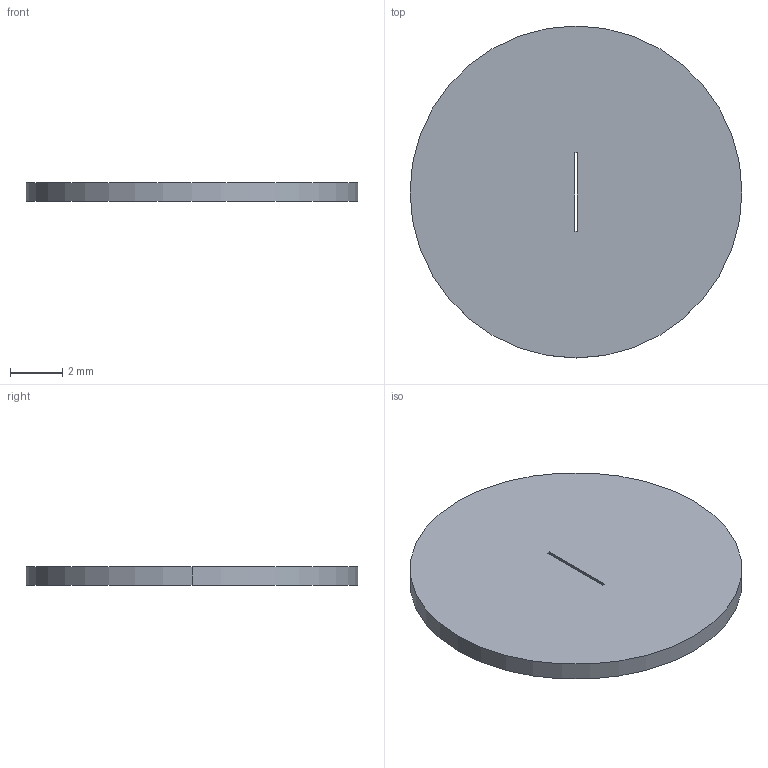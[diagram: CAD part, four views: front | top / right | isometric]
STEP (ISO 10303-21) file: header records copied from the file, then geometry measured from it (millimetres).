
FILE_DESCRIPTION((''),'2;1');
FILE_NAME('1-01-3MM','2022-04-24T',('Administrator'),(''),'CREO PARAMETRIC BY PTC INC, 2015290','CREO PARAMETRIC BY PTC INC, 2015290','');
FILE_SCHEMA(('CONFIG_CONTROL_DESIGN'));
Length unit declared in the file: millimetre
Products named in the file (1): 1-01-3MM
Bounding box: 12.7 x 12.7 x 0.7 mm (x, y, z)
Volume: 88.5 mm3; surface area: 285 mm2
Topology: 1 solids, 1 shells, 8 faces, 18 edges, 12 vertices
Faces by surface type: plane 6, cylinder 2
Entity records: 268 total; most frequent: CARTESIAN_POINT 38, DIRECTION 38, ORIENTED_EDGE 36, EDGE_CURVE 18, VECTOR 14, LINE 14, AXIS2_PLACEMENT_3D 12, VERTEX_POINT 12
